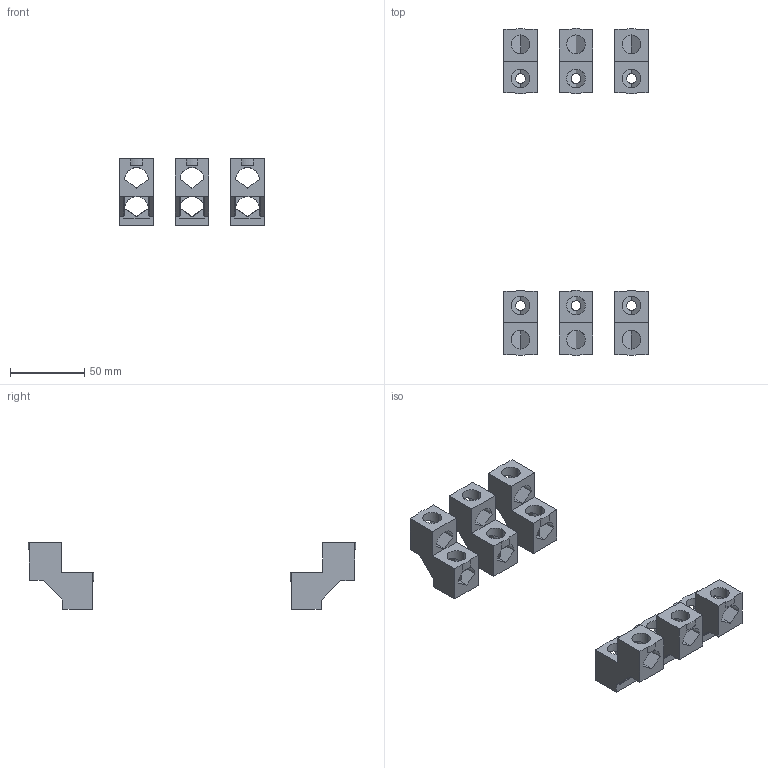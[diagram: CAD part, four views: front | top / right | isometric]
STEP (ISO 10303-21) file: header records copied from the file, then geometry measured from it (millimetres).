
FILE_DESCRIPTION (( 'STEP AP214' ), '1' );
FILE_NAME ('Êîìïëåêò çàæèìîâ äâóõãíåçäíûõ 2õ95 êâ ìì ÂÀ04-36ÂÀ51-35-ÓÕË3 200 À, 250 À.STEP', '2023-07-24T12:38:25', ( '' ), ( '' ), 'SwSTEP 2.0', 'SolidWorks 2018', '' );
FILE_SCHEMA (( 'AUTOMOTIVE_DESIGN' ));
Length unit declared in the file: millimetre
Products named in the file (1): Êîìïëåêò çàæèìîâ äâóõãíåçäíûõ 2õ95 êâ ìì ÂÀ04-36ÂÀ51-35-ÓÕË3 200 À, 250 À
Bounding box: 97.18 x 220.28 x 45.06 mm (x, y, z)
Volume: 97965 mm3; surface area: 46593.4 mm2
Topology: 6 solids, 6 shells, 216 faces, 636 edges, 414 vertices
Faces by surface type: plane 156, cylinder 60
Entity records: 10799 total; most frequent: CARTESIAN_POINT 2497, ORIENTED_EDGE 1272, DIRECTION 1118, EDGE_CURVE 636, VECTOR 504, LINE 504, VERTEX_POINT 414, AXIS2_PLACEMENT_3D 307
